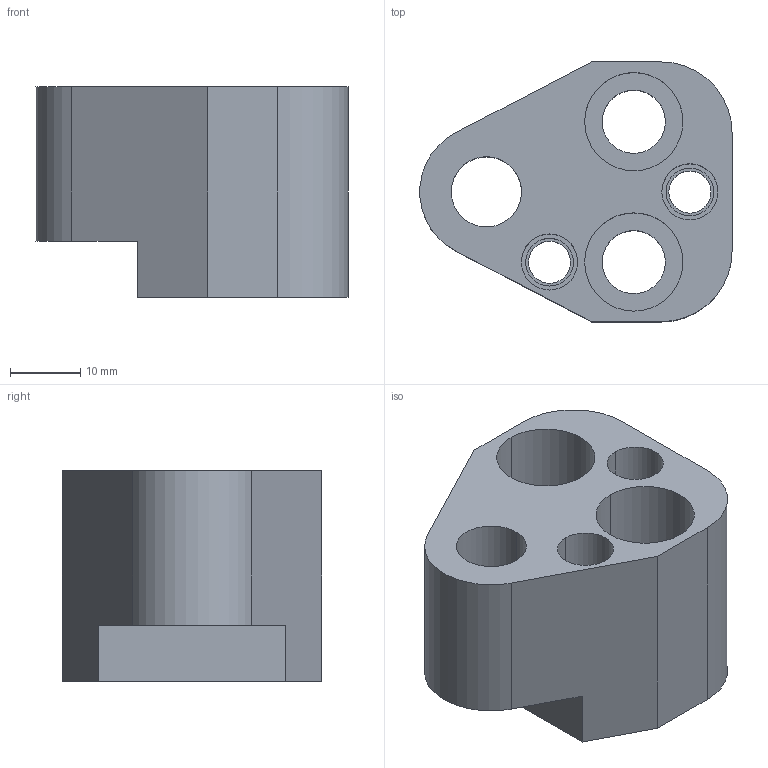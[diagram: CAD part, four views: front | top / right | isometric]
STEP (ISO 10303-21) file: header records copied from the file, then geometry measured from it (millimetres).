
FILE_DESCRIPTION(/* description */ (''),/* implementation_level */ '2;1');
FILE_NAME(/* name */ '3d_fp-fn10_03770_r00.stp',/* time_stamp */ '2011-01-10T14:15:36+09:00',/* author */ ('MISUMI'),/* organization */ (''),/* preprocessor_version */ 'ST-DEVELOPER v11',/* originating_system */ 'UGS - NX 5.0',/* authorisation */ '');
FILE_SCHEMA (('CONFIG_CONTROL_DESIGN'));
Length unit declared in the file: millimetre
Products named in the file (1): 3d_fp-fn10_03770_r00
Bounding box: 44.47 x 37 x 30 mm (x, y, z)
Volume: 26471.9 mm3; surface area: 9925.7 mm2
Topology: 1 solids, 1 shells, 42 faces, 104 edges, 69 vertices
Faces by surface type: cylinder 25, plane 15, cone 2
Entity records: 1382 total; most frequent: DIRECTION 242, CARTESIAN_POINT 221, ORIENTED_EDGE 208, EDGE_CURVE 104, AXIS2_PLACEMENT_3D 96, VERTEX_POINT 69, EDGE_LOOP 57, CIRCLE 53
